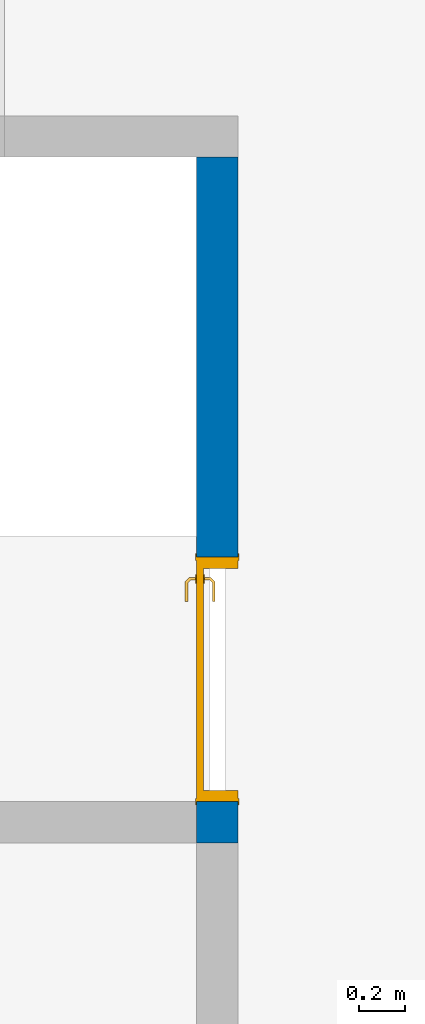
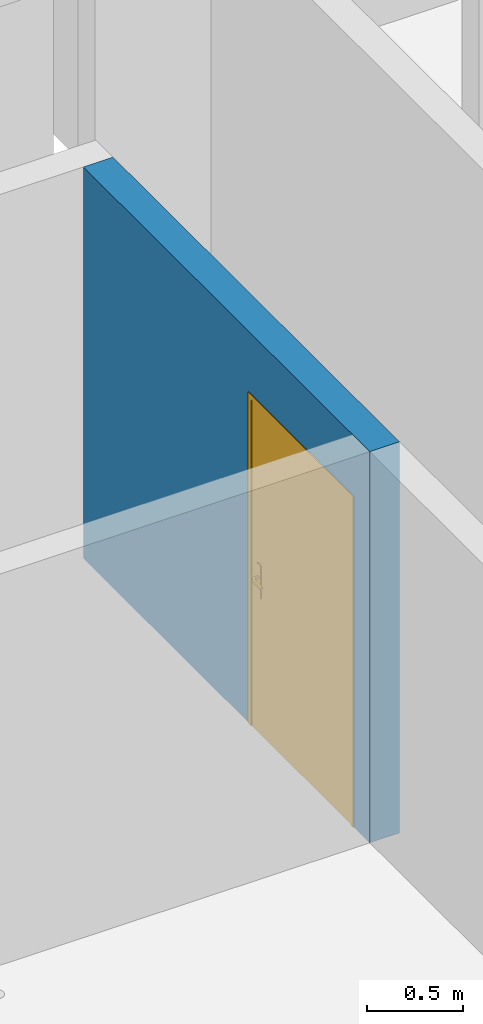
# One storey, part 5 of 28: 1 door, 1 wall, 1 opening.
"""IFC2X3 building model written with IfcOpenShell, lengths in centimetres."""

from ifc_helpers import new_model, entity, si_unit, converted_unit, derived_unit, direction, frame, frame_2d, origin, place, context, subcontext, project, spatial, rectangle, extrude, faceted_brep, source, transform, mapped, material, material_list, layer, layer_set, layer_usage, type_object, type_shapes, element, fill, save


model = new_model("IFC2X3")

# Units and contexts
model_context = context("Model", 3, precision=0.001, world=origin(), true_north=direction((6.12303176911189e-17, 1.0)))
body_context = subcontext(model_context, "Body", "Model", "MODEL_VIEW")
ifc_project = project(units=[si_unit("LENGTHUNIT", "METRE", prefix="CENTI"), si_unit("AREAUNIT", "SQUARE_METRE"), si_unit("VOLUMEUNIT", "CUBIC_METRE"), converted_unit("PLANEANGLEUNIT", "DEGREE", entity("IfcRatioMeasure", 0.0174532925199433), si_unit("PLANEANGLEUNIT", "RADIAN"), dimensions=[0, 0, 0, 0, 0, 0, 0]), si_unit("MASSUNIT", "GRAM", prefix="KILO"), derived_unit("MASSDENSITYUNIT", [(si_unit("MASSUNIT", "GRAM", prefix="KILO"), 1), (si_unit("LENGTHUNIT", "METRE"), -3)]), si_unit("TIMEUNIT", "SECOND"), si_unit("FREQUENCYUNIT", "HERTZ"), si_unit("THERMODYNAMICTEMPERATUREUNIT", "DEGREE_CELSIUS"), derived_unit("THERMALTRANSMITTANCEUNIT", [(si_unit("MASSUNIT", "GRAM", prefix="KILO"), 1), (si_unit("THERMODYNAMICTEMPERATUREUNIT", "KELVIN"), -1), (si_unit("TIMEUNIT", "SECOND"), -3)]), derived_unit("VOLUMETRICFLOWRATEUNIT", [(si_unit("LENGTHUNIT", "METRE"), 3), (si_unit("TIMEUNIT", "SECOND"), -1)]), si_unit("ELECTRICCURRENTUNIT", "AMPERE"), si_unit("ELECTRICVOLTAGEUNIT", "VOLT"), si_unit("POWERUNIT", "WATT"), si_unit("FORCEUNIT", "NEWTON"), si_unit("ILLUMINANCEUNIT", "LUX"), si_unit("LUMINOUSFLUXUNIT", "LUMEN"), si_unit("LUMINOUSINTENSITYUNIT", "CANDELA"), derived_unit("USERDEFINED", [(si_unit("MASSUNIT", "GRAM", prefix="KILO"), -1), (si_unit("LENGTHUNIT", "METRE"), -2), (si_unit("TIMEUNIT", "SECOND"), 3), (si_unit("LUMINOUSFLUXUNIT", "LUMEN"), 1)]), derived_unit("LINEARVELOCITYUNIT", [(si_unit("LENGTHUNIT", "METRE"), 1), (si_unit("TIMEUNIT", "SECOND"), -1)]), si_unit("PRESSUREUNIT", "PASCAL"), derived_unit("USERDEFINED", [(si_unit("LENGTHUNIT", "METRE"), -2), (si_unit("MASSUNIT", "GRAM", prefix="KILO"), 1), (si_unit("TIMEUNIT", "SECOND"), -2)])], contexts=[model_context])

# Site, building, storey
site_placement = place(None, origin())
site = spatial("IfcSite", under=ifc_project, at=site_placement, Name="Default", CompositionType="ELEMENT")
building_placement = place(site_placement, origin())
building = spatial("IfcBuilding", under=site, at=building_placement, Name="CAGE 03", CompositionType="ELEMENT")
storey_placement = place(building_placement, frame((0.0, 0.0, 1420.0)))
storey = spatial("IfcBuildingStorey", under=building, at=storey_placement, Name="R+5", CompositionType="ELEMENT", Elevation=1420.0)

# Wall, opening, door
ifc_material_1 = material(Name="Béton, panneaux préfa 30/37")
ifc_layer_1 = layer(ifc_material_1, 5.5)
ifc_material_2 = material(Name="Béton, C25/30")
ifc_layer_2 = layer(ifc_material_2, 7.0)
ifc_layer_3 = layer(ifc_material_1, 5.5)
ifc_layer_set = layer_set([ifc_layer_1, ifc_layer_2, ifc_layer_3], Name="Mur de base:premur 18")
ifc_layer_usage = layer_usage(ifc_layer_set, "AXIS2", "NEGATIVE", 9.0)
wall_type = type_object("IfcWallType", Name="Mur de base:premur 18", PredefinedType="NOTDEFINED")
wall_placement = place(storey_placement, frame((3963.36582014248, 4932.66066607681, 0.0), z_axis=(0.0, 0.0, 1.0), x_axis=(0.0, -1.0, 0.0)))
wall = element("IfcWallStandardCase", 1, at=wall_placement, inside=storey, type_object=wall_type, material=ifc_layer_usage, Name="Mur de base:premur 18", ObjectType="Mur de base:premur 18", context=body_context, shape_type="SweptSolid", body=[
    extrude(rectangle(XDim=300.0, YDim=17.9999999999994, at=frame_2d((150.0, -1.94511073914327e-13), x_axis=(-1.0, 0.0))), origin(), (0.0, 0.0, 1.0), 250.0),
])
opening_placement = place(wall_placement, frame((282.0, 9.0, 0.0)))
opening = element("IfcOpeningElement", 2, at=opening_placement, cuts=wall, Name="Int. Simple:HB103:1", ObjectType="Opening", context=body_context, shape_type="SweptSolid", body=[
    extrude(rectangle(XDim=210.000000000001, YDim=107.0, at=frame_2d((105.000000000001, 53.5000000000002), x_axis=(1.0, 0.0))), frame((0.0, 0.0, 0.0), z_axis=(0.0, -1.0, 0.0), x_axis=(0.0, 0.0, 1.0)), (0.0, 0.0, 1.0), 18.0),
])
ifc_material_3 = material(Name="Finition Peinture - Blanc satiné")
ifc_material_4 = material(Name="Bois - Panneau de porte")
ifc_material_5 = material(Name="Bois - Cadre de porte")
ifc_material_list_1 = material_list([ifc_material_3, ifc_material_4, ifc_material_5])
ifc_material_list_2 = material_list([ifc_material_3, ifc_material_4, ifc_material_5])
door_style = type_object("IfcDoorStyle", Name="HB103", ConstructionType="NOTDEFINED", OperationType="SINGLE_SWING_LEFT", ParameterTakesPrecedence=False, Sizeable=False, material=ifc_material_list_2)
shared_shape = source(origin(), body_context, "Body", "Brep", [
    faceted_brep([(10.5352761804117, -0.500000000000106, 86.6003983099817), (11.5000000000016, -0.500000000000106, 87.0), (11.5000000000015, -0.500000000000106, 108.0), (10.5352761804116, -0.500000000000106, 108.399601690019), (9.50000000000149, -0.500000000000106, 108.535898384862), (8.46472381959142, -0.500000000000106, 108.399601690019), (7.50000000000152, -0.500000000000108, 108.0), (7.50000000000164, -0.500000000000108, 87.0), (8.46472381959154, -0.500000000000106, 86.6003983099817), (9.5000000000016, -0.500000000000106, 86.464101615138), (10.5352761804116, 0.0, 108.399601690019), (11.5000000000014, 0.0, 108.0), (11.5000000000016, 0.0, 87.0), (10.5352761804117, 0.0, 86.6003983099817), (9.5000000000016, 0.0, 86.464101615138), (8.46472381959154, 0.0, 86.6003983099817), (7.50000000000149, 0.0, 87.0), (7.50000000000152, 0.0, 108.0), (8.46472381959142, 0.0, 108.399601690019), (9.50000000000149, 0.0, 108.535898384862)], [[[0, 1, 2, 3, 4, 5, 6, 7, 8, 9]], [[10, 11, 12, 13, 14, 15, 16, 17, 18, 19]], [[16, 15, 8, 7]], [[8, 15, 14, 9]], [[14, 13, 0, 9]], [[13, 12, 1, 0]], [[2, 1, 12, 11]], [[11, 10, 3, 2]], [[3, 10, 19, 4]], [[19, 18, 5, 4]], [[18, 17, 6, 5]], [[7, 6, 17, 16]]]),
    faceted_brep([(10.5352761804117, 3.0, 86.6003983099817), (11.5000000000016, 3.0, 87.0), (11.5000000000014, 3.0, 108.0), (10.5352761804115, 3.0, 108.399601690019), (9.50000000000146, 3.0, 108.535898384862), (8.4647238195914, 3.0, 108.399601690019), (7.50000000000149, 3.0, 108.0), (7.50000000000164, 3.0, 87.0), (8.46472381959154, 3.0, 86.6003983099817), (9.50000000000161, 3.0, 86.464101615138), (10.5352761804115, 3.49999999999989, 108.399601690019), (11.5000000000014, 3.49999999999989, 108.0), (11.5000000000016, 3.49999999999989, 87.0), (10.5352761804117, 3.49999999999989, 86.6003983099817), (9.50000000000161, 3.49999999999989, 86.464101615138), (8.46472381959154, 3.49999999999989, 86.6003983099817), (7.50000000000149, 3.49999999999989, 87.0), (7.50000000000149, 3.49999999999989, 108.0), (8.4647238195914, 3.49999999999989, 108.399601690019), (9.50000000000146, 3.49999999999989, 108.535898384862)], [[[0, 1, 2, 3, 4, 5, 6, 7, 8, 9]], [[10, 11, 12, 13, 14, 15, 16, 17, 18, 19]], [[11, 10, 3, 2]], [[3, 10, 19, 4]], [[19, 18, 5, 4]], [[18, 17, 6, 5]], [[7, 6, 17, 16]], [[16, 15, 8, 7]], [[8, 15, 14, 9]], [[14, 13, 0, 9]], [[13, 12, 1, 0]], [[2, 1, 12, 11]]]),
    faceted_brep([(9.29747013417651, -0.500000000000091, 100.778044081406), (9.70252986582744, -0.500000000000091, 100.778044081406), (10.1000000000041, -0.500000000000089, 100.699999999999), (10.1000000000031, -0.500000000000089, 99.3000000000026), (9.7025298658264, -0.500000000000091, 99.2219559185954), (9.29747013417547, -0.500000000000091, 99.2219559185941), (8.89999999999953, -0.500000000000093, 99.2999999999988), (8.89999999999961, -0.500000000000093, 100.7), (8.8999999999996, -3.26509507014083, 100.7), (9.29747013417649, -3.1004575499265, 100.778044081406), (10.9023585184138, -4.70534593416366, 100.778044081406), (11.0701397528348, -4.30028620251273, 100.778044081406), (9.70252986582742, -2.93267631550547, 100.778044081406), (10.1000000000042, -2.76803879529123, 100.7), (10.1000000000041, -2.76803879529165, 99.3000000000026), (9.7025298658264, -2.93267631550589, 99.2219559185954), (11.0701397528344, -4.30028620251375, 99.2219559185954), (10.9023585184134, -4.70534593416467, 99.2219559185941), (9.29747013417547, -3.10045754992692, 99.2219559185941), (8.89999999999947, -3.26509507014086, 99.2999999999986), (10.7377209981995, -5.10281606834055, 100.7), (11.2347772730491, -3.90281606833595, 100.7), (11.2347772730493, -3.90281606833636, 99.3000000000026), (10.7377209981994, -5.10281606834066, 99.2999999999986), (19.5018640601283, -5.10281606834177, 99.2999999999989), (19.5018640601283, -4.70534593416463, 99.2219559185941), (19.5018640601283, -4.30028620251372, 99.2219559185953), (19.5018640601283, -3.90281606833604, 99.3000000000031), (19.5018640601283, -3.90281606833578, 100.7), (19.5018640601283, -4.30028620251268, 100.778044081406), (19.5018640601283, -4.7053459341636, 100.778044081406), (19.5018640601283, -5.10281606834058, 100.699999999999), (14.7307697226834, -5.10281606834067, 100.7), (15.2860019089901, -4.50281606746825, 100.78786867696), (15.3683206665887, -3.90281606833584, 100.7), (15.3683206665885, -3.90281606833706, 99.3000000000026), (15.2860018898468, -4.50281607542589, 99.2121313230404), (14.7307703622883, -5.10281606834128, 99.2999999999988)], [[[0, 1, 2, 3, 4, 5, 6, 7]], [[8, 9, 0, 7]], [[9, 10, 11, 12, 1, 0]], [[12, 13, 2, 1]], [[3, 2, 13, 14]], [[14, 15, 4, 3]], [[15, 16, 17, 18, 5, 4]], [[18, 19, 6, 5]], [[7, 6, 19, 8]], [[20, 10, 9, 8]], [[11, 21, 13, 12]], [[14, 13, 21, 22]], [[22, 16, 15, 14]], [[17, 23, 19, 18]], [[8, 19, 23, 20]], [[24, 25, 26, 27, 28, 29, 30, 31]], [[32, 30, 33]], [[31, 30, 32]], [[10, 20, 32]], [[33, 34, 11]], [[21, 11, 34]], [[34, 29, 28]], [[30, 29, 33]], [[29, 34, 33]], [[10, 32, 33]], [[10, 33, 11]], [[22, 21, 34, 28, 27, 35]], [[35, 26, 36]], [[37, 36, 25]], [[22, 35, 16]], [[35, 27, 26]], [[24, 37, 25]], [[23, 17, 37]], [[37, 17, 36]], [[17, 16, 36]], [[16, 35, 36]], [[25, 36, 26]], [[20, 23, 37, 24, 31, 32]]]),
    faceted_brep([(9.29747013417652, 3.49999999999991, 100.778044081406), (8.89999999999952, 3.4999999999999, 100.7), (8.89999999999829, 3.4999999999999, 99.299999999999), (9.29747013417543, 3.49999999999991, 99.2219559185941), (9.70252986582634, 3.49999999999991, 99.2219559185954), (10.1000000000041, 3.49999999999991, 99.3000000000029), (10.1000000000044, 3.49999999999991, 100.7), (9.70252986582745, 3.49999999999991, 100.778044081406), (10.1000000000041, 5.74852045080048, 99.3000000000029), (10.1000000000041, 5.74852045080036, 100.7), (9.70252986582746, 5.91315797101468, 100.778044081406), (11.0838906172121, 7.29451872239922, 100.778044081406), (10.9161093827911, 7.69957845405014, 100.778044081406), (9.29747013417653, 6.08093920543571, 100.778044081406), (8.89999999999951, 6.2455767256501, 100.7), (8.8999999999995, 6.24557672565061, 99.299999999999), (9.29747013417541, 6.08093920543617, 99.2219559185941), (10.9161093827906, 7.69957845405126, 99.2219559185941), (11.0838906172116, 7.29451872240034, 99.2219559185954), (9.70252986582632, 5.91315797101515, 99.2219559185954), (11.2485281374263, 6.89704858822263, 99.3000000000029), (11.2485281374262, 6.89704858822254, 100.7), (10.7514718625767, 8.09704858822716, 100.7), (10.7514718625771, 8.09704858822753, 99.299999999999), (19.5045783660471, 6.8970485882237, 99.3000000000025), (19.5045783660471, 7.29451872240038, 99.2219559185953), (19.5045783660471, 7.6995784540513, 99.2219559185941), (19.5045783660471, 8.09704858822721, 99.2999999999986), (19.5045783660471, 8.0970485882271, 100.7), (19.5045783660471, 7.6995784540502, 100.778044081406), (19.5045783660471, 7.29451872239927, 100.778044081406), (19.5045783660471, 6.89704858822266, 100.7), (15.3765532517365, 6.89704858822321, 99.3000000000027), (15.3765532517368, 6.89704858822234, 100.7), (15.2942344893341, 7.4970485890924, 100.78786867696), (14.7445205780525, 8.09704858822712, 100.7), (14.7445205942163, 8.09704858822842, 99.299999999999), (15.2942345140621, 7.49704858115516, 99.2121313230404)], [[[0, 1, 2, 3, 4, 5, 6, 7]], [[6, 5, 8, 9]], [[9, 10, 7, 6]], [[10, 11, 12, 13, 0, 7]], [[13, 14, 1, 0]], [[2, 1, 14, 15]], [[15, 16, 3, 2]], [[16, 17, 18, 19, 4, 3]], [[19, 8, 5, 4]], [[9, 8, 20, 21]], [[21, 11, 10, 9]], [[12, 22, 14, 13]], [[15, 14, 22, 23]], [[23, 17, 16, 15]], [[18, 20, 8, 19]], [[24, 25, 26, 27, 28, 29, 30, 31]], [[21, 20, 32, 24, 31, 33]], [[33, 30, 34]], [[35, 34, 29]], [[21, 33, 11]], [[33, 31, 30]], [[28, 35, 29]], [[22, 12, 35]], [[35, 12, 34]], [[12, 11, 34]], [[11, 33, 34]], [[29, 34, 30]], [[22, 35, 28, 27, 36, 23]], [[36, 26, 37]], [[27, 26, 36]], [[17, 23, 36]], [[37, 32, 18]], [[20, 18, 32]], [[32, 25, 24]], [[26, 25, 37]], [[25, 32, 37]], [[17, 36, 37]], [[17, 37, 18]]]),
    faceted_brep([(3.5000000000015, 3.0, 206.5), (103.500000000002, 3.0, 206.5), (103.500000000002, 3.0, 0.0), (3.5000000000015, 3.0, 0.0), (3.5000000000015, 0.0, 206.5), (3.5000000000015, 0.0, 0.0), (103.500000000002, 0.0, 0.0), (103.500000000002, 0.0, 206.5)], [[[0, 1, 2, 3]], [[4, 5, 6, 7]], [[1, 0, 4, 7]], [[2, 1, 7, 6]], [[3, 2, 6, 5]], [[0, 3, 5, 4]]]),
    faceted_brep([(0.0, 0.0, 0.0), (0.0, 18.0, 0.0), (5.0, 18.0, 0.0), (5.0, 3.0, 0.0), (3.50000000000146, 3.0, 0.0), (3.50000000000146, 0.0, 0.0), (0.0, 0.0, 210.0), (0.0, 18.0, 210.0), (107.0, 18.0, 210.0), (107.0, 18.0, 0.0), (102.0, 18.0, 0.0), (102.0, 18.0, 205.0), (5.0, 18.0, 205.0), (5.0, 3.0, 205.0), (102.0, 3.0, 205.0), (102.0, 3.0, 0.0), (103.499999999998, 3.0, 0.0), (103.499999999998, 3.0, 206.5), (3.50000000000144, 3.0, 206.5), (3.50000000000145, 0.0, 206.5), (103.499999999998, 0.0, 206.5), (103.499999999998, 0.0, 0.0), (107.0, 0.0, 0.0), (107.0, 0.0, 210.0)], [[[0, 1, 2, 3, 4, 5]], [[1, 0, 6, 7]], [[2, 1, 7, 8, 9, 10, 11, 12]], [[3, 2, 12, 13]], [[4, 3, 13, 14, 15, 16, 17, 18]], [[5, 4, 18, 19]], [[0, 5, 19, 20, 21, 22, 23, 6]], [[8, 23, 22, 9]], [[22, 21, 16, 15, 10, 9]], [[14, 11, 10, 15]], [[20, 17, 16, 21]], [[7, 6, 23, 8]], [[13, 12, 11, 14]], [[19, 18, 17, 20]]]),
    faceted_brep([(1.49999999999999, 18.0, 0.0), (-1.5, 18.0, 0.0), (-1.5, 18.5000000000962, 0.0), (1.49999999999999, 18.5000000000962, 0.0), (1.49999999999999, 18.0, 208.500000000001), (105.5, 18.0, 208.500000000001), (105.5, 18.0, 0.0), (108.5, 18.0, 0.0), (108.5, 18.0, 211.500000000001), (-1.50000000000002, 18.0, 211.500000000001), (-1.5, 18.5000000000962, 211.500000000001), (108.5, 18.5000000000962, 211.500000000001), (108.5, 18.5000000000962, 0.0), (105.5, 18.5000000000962, 0.0), (105.5, 18.5000000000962, 208.500000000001), (1.49999999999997, 18.5000000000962, 208.500000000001)], [[[0, 1, 2, 3]], [[1, 0, 4, 5, 6, 7, 8, 9]], [[2, 1, 9, 10]], [[3, 2, 10, 11, 12, 13, 14, 15]], [[0, 3, 15, 4]], [[6, 13, 12, 7]], [[5, 14, 13, 6]], [[11, 8, 7, 12]], [[10, 9, 8, 11]], [[4, 15, 14, 5]]]),
    faceted_brep([(-1.5, -0.5, 0.0), (1.49999999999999, -0.5, 0.0), (1.49999999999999, -0.5, 208.500000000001), (105.5, -0.5, 208.500000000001), (105.5, -0.5, 0.0), (108.5, -0.5, 0.0), (108.5, -0.5, 211.500000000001), (-1.50000000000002, -0.5, 211.500000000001), (-1.5, 0.0, 0.0), (-1.5, 0.0, 211.500000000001), (1.49999999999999, 0.0, 0.0), (108.5, 0.0, 211.500000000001), (108.5, 0.0, 0.0), (105.5, 0.0, 0.0), (105.5, 0.0, 208.500000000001), (1.49999999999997, 0.0, 208.500000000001)], [[[0, 1, 2, 3, 4, 5, 6, 7]], [[8, 0, 7, 9]], [[10, 8, 9, 11, 12, 13, 14, 15]], [[1, 10, 15, 2]], [[3, 14, 13, 4]], [[11, 6, 5, 12]], [[9, 7, 6, 11]], [[2, 15, 14, 3]], [[4, 13, 12, 5]], [[1, 0, 8, 10]]]),
])
type_shapes(door_style, [shared_shape])
door_placement = place(opening_placement, frame((-107.0, -18.0, 0.0)))
door = element("IfcDoor", 3, at=door_placement, inside=storey, type_object=door_style, material=ifc_material_list_1, Name="Int. Simple:HB103", ObjectType="HB103", OverallHeight=210.000000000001, OverallWidth=107.0, context=body_context, shape_type="MappedRepresentation", body=[
    mapped(shared_shape, transform((0.0, 0.0, 0.0), scale=1.0)),
])
fill(opening, door)

save(model, "model.ifc")
